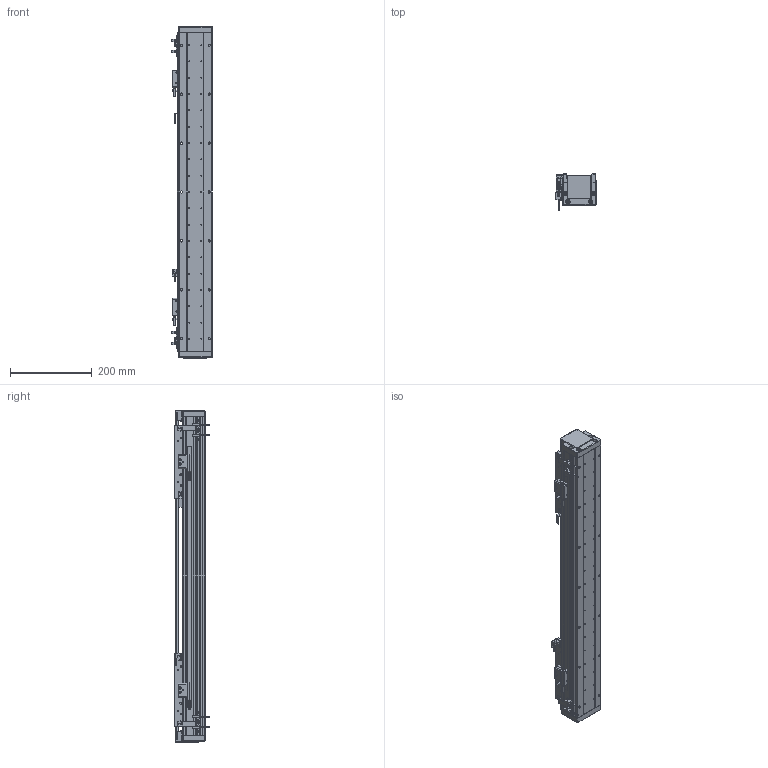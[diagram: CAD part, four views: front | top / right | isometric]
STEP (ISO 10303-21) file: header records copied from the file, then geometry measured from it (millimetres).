
FILE_DESCRIPTION (( 'STEP AP203' ), '1' );
FILE_NAME ('DA-A82-2-B2-T360-C010-0.2 眻盄萇儂.STEP', '2025-08-13T02:28:20', ( '' ), ( '' ), 'SwSTEP 2.0', 'SolidWorks 2019', '' );
FILE_SCHEMA (( 'CONFIG_CONTROL_DESIGN' ));
Length unit declared in the file: millimetre
Products named in the file (27): DA-A60-GYP-DMT-00 光电感应片^DA-A82-B2-T-C010-0.2-N 直线电机(默认); 复件 DA82-GDZ-ZJ-00 中间光电固定座^DA-A82-B2-T-C010-0.2-N 直线电机; 复件 复件 DA82-XJ-00 缓冲橡胶^DA-A82-B2-T-C010-0.2-N 直线电机; 复件 DA95-GT-T-00 底座钢轨^IU-AU82-L 底座导轨; 复件 XD-U-02  磁栅尺^DA-A82-B2-T-C010-0.2-N 直线电机; 复件 DA82-DG-H-N-00 端盖^DA-A82-B2-T-C010-0.2-N 直线电机(默认_按加工_); DA-A82-2-B2-T360-C010-0.2 眻盄萇儂; 复件 六角薄螺母 M3^DA-A82-B2-T-C010-0.2-N 直线电机; 葩璃 PM-T45^DA-A82-B2-T-C010-0.2-N 眻盄萇儂; 复件 DA95-B2-GT-00 滑块钢轨^AU82-M-00 一体化滑动台板; 葩璃 DMT-010 1米m 0.2M^DA-A82-B2-T-C010-0.2-N 眻盄萇儂; 葩璃 PM-L25^DA-A82-B2-T-C010-0.2-N 眻盄萇儂; 复件 纯铜油杯 6x6mm^AU82-M 滚珠滑台; 复件 DA82-GYP-ZJ-00 中间光电感应片^DA-A82-B2-T-C010-0.2-N 直线电机; IU-AU82-L 菁釱絳寢; 复件 BKM02-W040-C1-TP-DA-3.0 直线电机动子^DA-A82-B2-T-C010-0.2-N 直线电机; 复件 DKW-GJ-XJ-00 防撞橡胶^DA-A82-B2-T-C010-0.2-N 直线电机; 复件 DA82-T-002-00 盖板^DA-A82-B2-T-C010-0.2-N 直线电机; AU82-M 幗紩賑怢; 葩璃 BKM01-W040-TRL^DA-A82-B2-T-C010-0.2-N 眻盄萇儂; AU82-M 幗紩賑怢-1; AU82-M-00 珨极趙賑雄怢啣; IU-AU82-L-00 菁釱(L780); 葩璃 DA82-B2-DP-00 結え^AU82-M 幗紩賑怢; AU82-M-00 珨极趙賑雄怢啣-1; 复件 DA60-DMT-DTJ-00 读数头支架^DA-A82-B2-T-C010-0.2-N 直线电机; AU82-HT-M-00 賑雄怢啣
Assembly tree (57 placements, depth 4):
  DA-A82-2-B2-T360-C010-0.2 眻盄萇儂
    IU-AU82-L 菁釱絳寢
      IU-AU82-L-00 菁釱(L780)
      复件 DA95-GT-T-00 底座钢轨^IU-AU82-L 底座导轨  x2
    AU82-M 幗紩賑怢
      AU82-M-00 珨极趙賑雄怢啣
        AU82-HT-M-00 賑雄怢啣
        复件 DA95-B2-GT-00 滑块钢轨^AU82-M-00 一体化滑动台板  x4
      葩璃 DA82-B2-DP-00 結え^AU82-M 幗紩賑怢  x2
      复件 纯铜油杯 6x6mm^AU82-M 滚珠滑台  x2
    AU82-M 幗紩賑怢-1
      AU82-M-00 珨极趙賑雄怢啣-1
        AU82-HT-M-00 賑雄怢啣
        复件 DA95-B2-GT-00 滑块钢轨^AU82-M-00 一体化滑动台板  x4
      葩璃 DA82-B2-DP-00 結え^AU82-M 幗紩賑怢  x2
      复件 纯铜油杯 6x6mm^AU82-M 滚珠滑台  x2
    复件 BKM02-W040-C1-TP-DA-3.0 直线电机动子^DA-A82-B2-T-C010-0.2-N 直线电机  x2
    复件 DA60-DMT-DTJ-00 读数头支架^DA-A82-B2-T-C010-0.2-N 直线电机  x2
    葩璃 DMT-010 1米m 0.2M^DA-A82-B2-T-C010-0.2-N 眻盄萇儂  x2
    DA-A60-GYP-DMT-00 光电感应片^DA-A82-B2-T-C010-0.2-N 直线电机(默认)  x2
    复件 DA82-GDZ-ZJ-00 中间光电固定座^DA-A82-B2-T-C010-0.2-N 直线电机
    葩璃 PM-L25^DA-A82-B2-T-C010-0.2-N 眻盄萇儂
    复件 DA82-GYP-ZJ-00 中间光电感应片^DA-A82-B2-T-C010-0.2-N 直线电机
    复件 DKW-GJ-XJ-00 防撞橡胶^DA-A82-B2-T-C010-0.2-N 直线电机
    复件 复件 DA82-XJ-00 缓冲橡胶^DA-A82-B2-T-C010-0.2-N 直线电机  x2
    复件 DA82-DG-H-N-00 端盖^DA-A82-B2-T-C010-0.2-N 直线电机(默认_按加工_)  x2
    复件 DA82-T-002-00 盖板^DA-A82-B2-T-C010-0.2-N 直线电机
    葩璃 BKM01-W040-TRL^DA-A82-B2-T-C010-0.2-N 眻盄萇儂
    葩璃 PM-T45^DA-A82-B2-T-C010-0.2-N 眻盄萇儂  x4
    复件 XD-U-02  磁栅尺^DA-A82-B2-T-C010-0.2-N 直线电机
    复件 六角薄螺母 M3^DA-A82-B2-T-C010-0.2-N 直线电机  x8
Bounding box: 98.95 x 87.2 x 814 mm (x, y, z)
Volume: 3179393.5 mm3; surface area: 888418.6 mm2
Topology: 66 solids, 114 shells, 3023 faces, 7687 edges, 4720 vertices
Faces by surface type: cylinder 1285, plane 1228, cone 436, torus 46, bspline 20, sphere 8
Entity records: 57177 total; most frequent: CARTESIAN_POINT 12120, DIRECTION 8908, ORIENTED_EDGE 8326, EDGE_CURVE 4163, AXIS2_PLACEMENT_3D 3325, VERTEX_POINT 2691, LINE 2258, VECTOR 2258
